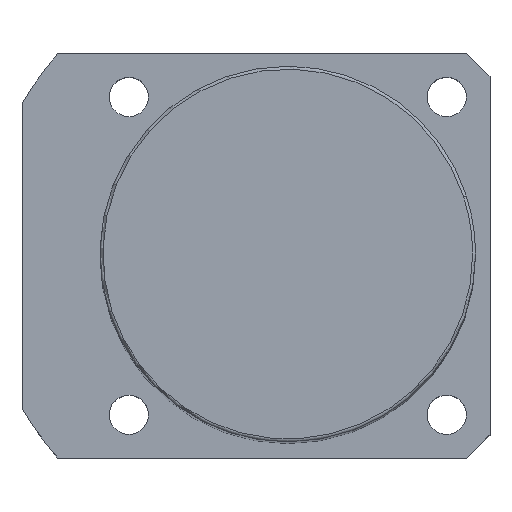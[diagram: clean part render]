
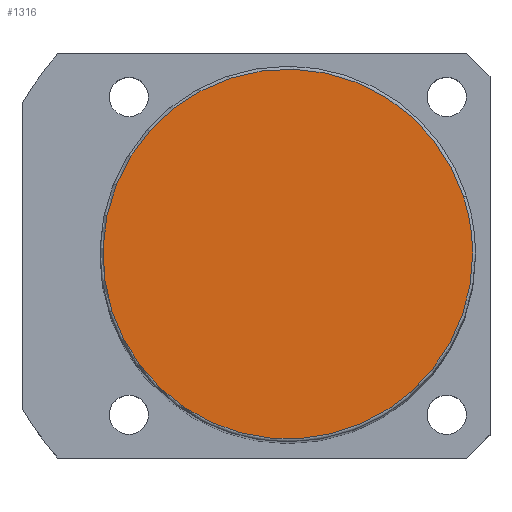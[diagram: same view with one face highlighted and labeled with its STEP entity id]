
A CAD part, top view. The second image highlights one B-rep face of the part: STEP entity #1316.
In plain terms, the highlighted planar face has unit normal (0, 0, 1).
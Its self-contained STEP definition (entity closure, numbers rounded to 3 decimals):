
#1282=CARTESIAN_POINT('',(32.0,0.0,196.0));
#1283=VERTEX_POINT('',#1282);
#1284=CARTESIAN_POINT('',(30.434,9.889,196.0));
#1285=VERTEX_POINT('',#1284);
#1286=CARTESIAN_POINT('',(0.0,0.0,196.0));
#1287=DIRECTION('',(0.0,0.0,1.0));
#1288=DIRECTION('',(1.0,0.0,0.0));
#1289=AXIS2_PLACEMENT_3D('',#1286,#1287,#1288);
#1290=CIRCLE('',#1289,32.0);
#1291=EDGE_CURVE('no 1848',#1283,#1285,#1290,.T.);
#1292=ORIENTED_EDGE('',*,*,#1291,.T.);
#1293=CARTESIAN_POINT('',(-30.434,-9.889,196.0));
#1294=VERTEX_POINT('',#1293);
#1295=CARTESIAN_POINT('',(0.0,0.0,196.0));
#1296=DIRECTION('',(0.0,0.0,1.0));
#1297=DIRECTION('',(1.0,0.0,0.0));
#1298=AXIS2_PLACEMENT_3D('',#1295,#1296,#1297);
#1299=CIRCLE('',#1298,32.0);
#1300=EDGE_CURVE('no 1854',#1285,#1294,#1299,.T.);
#1301=ORIENTED_EDGE('',*,*,#1300,.T.);
#1302=CARTESIAN_POINT('',(0.0,0.0,196.0));
#1303=DIRECTION('',(0.0,0.0,1.0));
#1304=DIRECTION('',(1.0,0.0,0.0));
#1305=AXIS2_PLACEMENT_3D('',#1302,#1303,#1304);
#1306=CIRCLE('',#1305,32.0);
#1307=EDGE_CURVE('no 1858',#1294,#1283,#1306,.T.);
#1308=ORIENTED_EDGE('',*,*,#1307,.T.);
#1309=EDGE_LOOP('',(#1292,#1301,#1308));
#1310=FACE_OUTER_BOUND('',#1309,.T.);
#1311=CARTESIAN_POINT('',(0.0,0.0,196.0));
#1312=DIRECTION('',(0.0,0.0,1.0));
#1313=DIRECTION('',(1.0,0.0,0.0));
#1314=AXIS2_PLACEMENT_3D('',#1311,#1312,#1313);
#1315=PLANE('',#1314);
#1316=ADVANCED_FACE('no 1839',(#1310),#1315,.T.);
